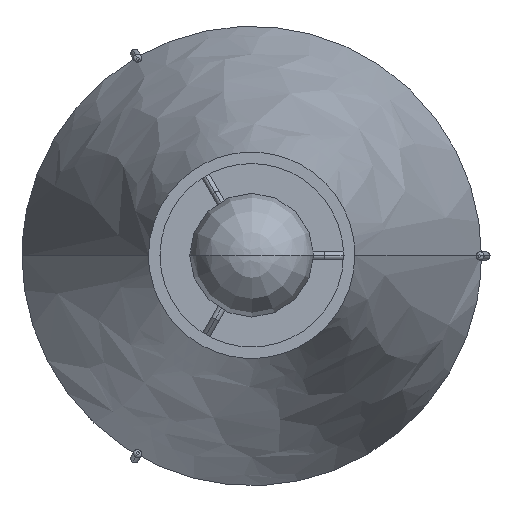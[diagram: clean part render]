
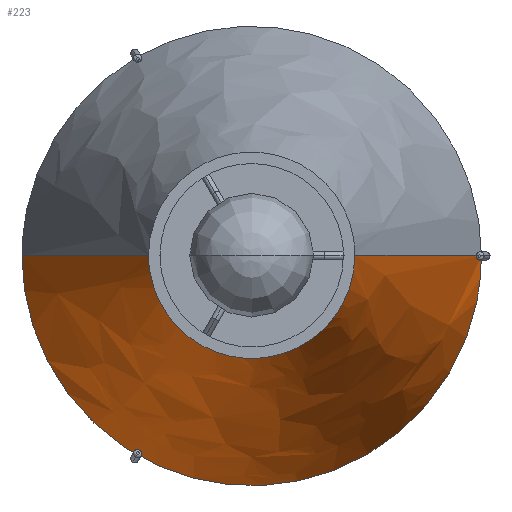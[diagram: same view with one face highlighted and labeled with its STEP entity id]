
A CAD part, top view. The second image highlights one B-rep face of the part: STEP entity #223.
In plain terms, the highlighted free-form (B-spline) face has degree [2, 1] with [5, 2] control points.
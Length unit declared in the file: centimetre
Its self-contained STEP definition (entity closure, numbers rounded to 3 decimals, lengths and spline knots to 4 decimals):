
#223=ADVANCED_FACE('',(#399),#2925,.T.);
#399=FACE_OUTER_BOUND('',#604,.T.);
#604=EDGE_LOOP('',(#1525,#1526,#1527,#1528));
#1525=ORIENTED_EDGE('',*,*,#1877,.T.);
#1526=ORIENTED_EDGE('',*,*,#1875,.T.);
#1527=ORIENTED_EDGE('',*,*,#1873,.T.);
#1528=ORIENTED_EDGE('',*,*,#1990,.F.);
#1873=EDGE_CURVE('',#2694,#2689,#2169,.T.);
#1875=EDGE_CURVE('',#2695,#2694,#2394,.T.);
#1877=EDGE_CURVE('',#2692,#2695,#2172,.T.);
#1990=EDGE_CURVE('',#2692,#2689,#2454,.T.);
#2169=(
BOUNDED_CURVE()
B_SPLINE_CURVE(2,(#6882,#6883,#6884,#6885,#6886),.UNSPECIFIED.,.F.,.F.)
B_SPLINE_CURVE_WITH_KNOTS((3,2,3),(0.,131.1615,262.323),
 .UNSPECIFIED.)
CURVE()
GEOMETRIC_REPRESENTATION_ITEM()
RATIONAL_B_SPLINE_CURVE((1.,0.707,1.,0.707,1.))
REPRESENTATION_ITEM('')
);
#2172=(
BOUNDED_CURVE()
B_SPLINE_CURVE(2,(#6899,#6900,#6901,#6902,#6903),.UNSPECIFIED.,.F.,.F.)
B_SPLINE_CURVE_WITH_KNOTS((3,2,3),(117.8097,176.7146,235.6194),
 .UNSPECIFIED.)
CURVE()
GEOMETRIC_REPRESENTATION_ITEM()
RATIONAL_B_SPLINE_CURVE((1.,0.707,1.,0.707,1.))
REPRESENTATION_ITEM('')
);
#2394=B_SPLINE_CURVE_WITH_KNOTS('',1,(#6892,#6893),.UNSPECIFIED.,.F.,.F.,
(2,2),(0.,162.6407),.UNSPECIFIED.);
#2454=B_SPLINE_CURVE_WITH_KNOTS('',1,(#7363,#7364),.UNSPECIFIED.,.F.,.F.,
(2,2),(0.,162.6407),.UNSPECIFIED.);
#2689=VERTEX_POINT('',#5509);
#2692=VERTEX_POINT('',#5512);
#2694=VERTEX_POINT('',#5514);
#2695=VERTEX_POINT('',#5515);
#2925=(
BOUNDED_SURFACE()
B_SPLINE_SURFACE(2,1,((#5286,#5287),(#5288,#5289),(#5290,#5291),(#5292,
#5293),(#5294,#5295)),.UNSPECIFIED.,.F.,.F.,.F.)
B_SPLINE_SURFACE_WITH_KNOTS((3,2,3),(2,2),(262.323,393.4845,
524.646),(0.,162.6407),.UNSPECIFIED.)
GEOMETRIC_REPRESENTATION_ITEM()
RATIONAL_B_SPLINE_SURFACE(((1.,1.),(0.707,0.707),
(1.,1.),(0.707,0.707),(1.,1.)))
REPRESENTATION_ITEM('')
SURFACE()
);
#5286=CARTESIAN_POINT('',(720.3522,176.8492,378.9469));
#5287=CARTESIAN_POINT('',(766.3522,176.8492,222.9469));
#5288=CARTESIAN_POINT('',(720.3522,139.3492,378.9469));
#5289=CARTESIAN_POINT('',(766.3522,93.3492,222.9469));
#5290=CARTESIAN_POINT('',(682.8522,139.3492,378.9469));
#5291=CARTESIAN_POINT('',(682.8522,93.3492,222.9469));
#5292=CARTESIAN_POINT('',(645.3522,139.3492,378.9469));
#5293=CARTESIAN_POINT('',(599.3522,93.3492,222.9469));
#5294=CARTESIAN_POINT('',(645.3522,176.8492,378.9469));
#5295=CARTESIAN_POINT('',(599.3522,176.8492,222.9469));
#5509=CARTESIAN_POINT('',(766.3522,176.8492,222.9469));
#5512=CARTESIAN_POINT('',(720.3522,176.8492,378.9469));
#5514=CARTESIAN_POINT('',(599.3522,176.8492,222.9469));
#5515=CARTESIAN_POINT('',(645.3522,176.8492,378.9469));
#6882=CARTESIAN_POINT('',(599.3522,176.8492,222.9469));
#6883=CARTESIAN_POINT('',(599.3522,93.3492,222.9469));
#6884=CARTESIAN_POINT('',(682.8522,93.3492,222.9469));
#6885=CARTESIAN_POINT('',(766.3522,93.3492,222.9469));
#6886=CARTESIAN_POINT('',(766.3522,176.8492,222.9469));
#6892=CARTESIAN_POINT('',(645.3522,176.8492,378.9469));
#6893=CARTESIAN_POINT('',(599.3522,176.8492,222.9469));
#6899=CARTESIAN_POINT('',(720.3522,176.8492,378.9469));
#6900=CARTESIAN_POINT('',(720.3522,139.3492,378.9469));
#6901=CARTESIAN_POINT('',(682.8522,139.3492,378.9469));
#6902=CARTESIAN_POINT('',(645.3522,139.3492,378.9469));
#6903=CARTESIAN_POINT('',(645.3522,176.8492,378.9469));
#7363=CARTESIAN_POINT('',(720.3522,176.8492,378.9469));
#7364=CARTESIAN_POINT('',(766.3522,176.8492,222.9469));
